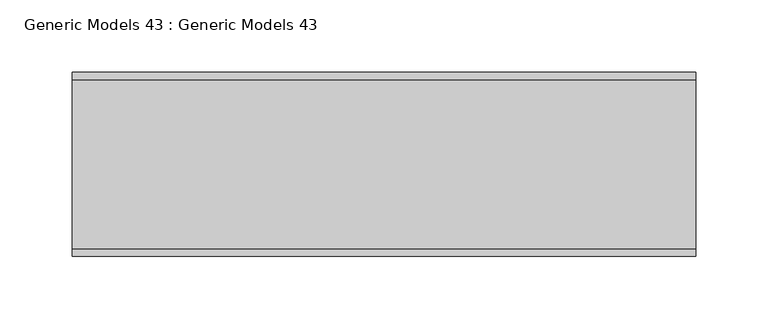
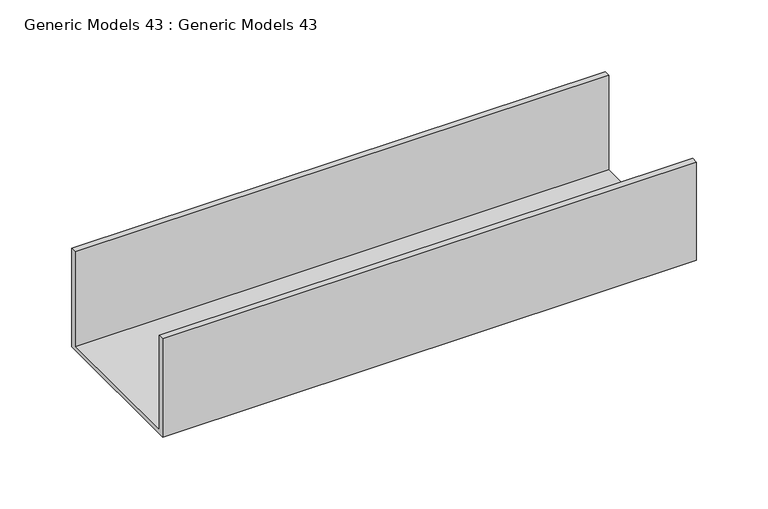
"""IFC4 building model written with IfcOpenShell, lengths in millimetres: proxy geometry, Generic Models 43 : Generic Models 43."""

from ifc_helpers import new_model, si_unit, frame, origin, place, context, project, spatial, polyline, outline, extrude, source, transform, mapped, element, save


def generic_models_43_generic_models_43_62c2da9d(model_context):
    return source(origin(), model_context, "Body", "SweptSolid", [
        extrude(outline(polyline([(20957.9011085, 1136.0779645), (20957.9011085, 1219.9511988), (20962.9011085, 1219.9511988), (20962.9011085, 1139.3658047), (21079.8313854, 1139.3658047), (21079.8313854, 1219.9511988), (21084.8313854, 1219.9511988), (21084.8313854, 1136.0779645), (20957.9011085, 1136.0779645)])), frame((87968.7972847, 0.0, 0.0), z_axis=(1.0, 0.0, 0.0), x_axis=(0.0, 1.0, 0.0)), (0.0, 0.0, 1.0), 430.0),
    ])


if __name__ == "__main__":
    model = new_model("IFC4")
    model_context = context("Model", 3, world=origin())
    ifc_project = project(units=[si_unit("LENGTHUNIT", "METRE", prefix="MILLI")], contexts=[model_context])
    site = spatial("IfcSite", under=ifc_project)
    building = spatial("IfcBuilding", under=site)
    placement = place(None, origin())
    generic_models_43_generic_models_43_shape = generic_models_43_generic_models_43_62c2da9d(model_context)
    element("IfcBuildingElementProxy", 1, Name="Generic Models 43 : Generic Models 43", ObjectType="Generic Models 43 : Generic Models 43", at=placement, inside=building, context=model_context, shape_type="MappedRepresentation", body=[
        mapped(generic_models_43_generic_models_43_shape, transform((0.0, 0.0, 0.0), x_axis=(1.0, 0.0, 0.0), y_axis=(0.0, 1.0, 0.0), z_axis=(0.0, 0.0, 1.0))),
    ])
    save(model, "model.ifc")
